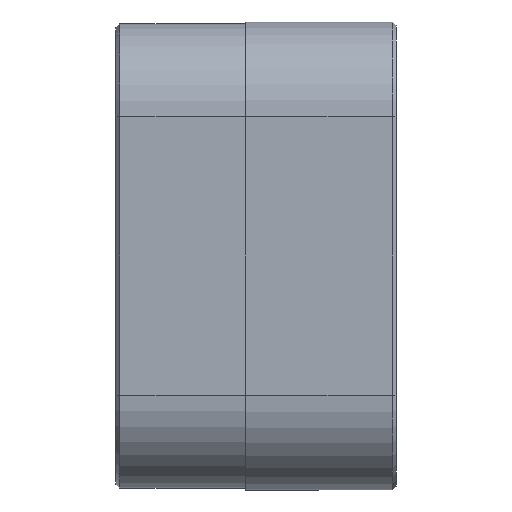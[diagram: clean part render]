
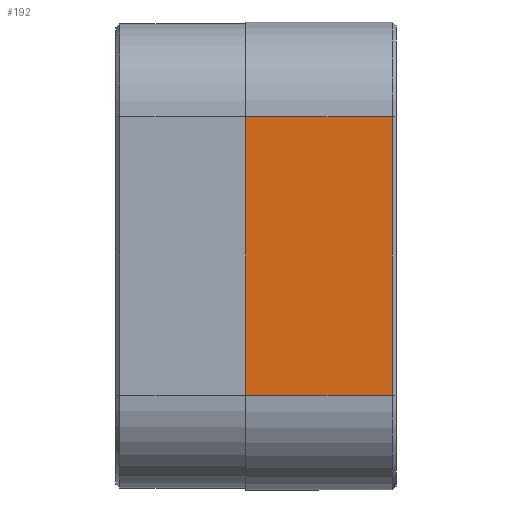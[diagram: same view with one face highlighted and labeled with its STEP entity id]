
A CAD part, left-side view. The second image highlights one B-rep face of the part: STEP entity #192.
In plain terms, the highlighted planar face has unit normal (-1, 0, 0).
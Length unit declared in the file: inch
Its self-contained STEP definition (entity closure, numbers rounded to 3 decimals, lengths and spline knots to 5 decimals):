
#117 = ORIENTED_EDGE ( 'NONE', *, *, #193, .T. ) ;
#132 = EDGE_LOOP ( 'NONE', ( #145, #117, #178, #177 ) ) ;
#138 = VERTEX_POINT ( 'NONE', #1022 ) ;
#145 = ORIENTED_EDGE ( 'NONE', *, *, #156, .T. ) ;
#154 = VERTEX_POINT ( 'NONE', #1097 ) ;
#156 = EDGE_CURVE ( 'NONE', #154, #161, #1082, .T. ) ;
#161 = VERTEX_POINT ( 'NONE', #1083 ) ;
#177 = ORIENTED_EDGE ( 'NONE', *, *, #181, .F. ) ;
#178 = ORIENTED_EDGE ( 'NONE', *, *, #179, .T. ) ;
#179 = EDGE_CURVE ( 'NONE', #138, #183, #1282, .T. ) ;
#181 = EDGE_CURVE ( 'NONE', #154, #183, #1279, .T. ) ;
#183 = VERTEX_POINT ( 'NONE', #1228 ) ;
#192 = ADVANCED_FACE ( 'NONE', ( #1231 ), #1221, .F. ) ;
#193 = EDGE_CURVE ( 'NONE', #161, #138, #1175, .T. ) ;
#1022 = CARTESIAN_POINT ( 'NONE',  ( -1.745, 0.02, 0.74 ) ) ;
#1079 = DIRECTION ( 'NONE',  ( 0., -1., 0. ) ) ;
#1080 = VECTOR ( 'NONE', #1079, 39.37008 ) ;
#1081 = CARTESIAN_POINT ( 'NONE',  ( -1.745, 1.49, -0.74 ) ) ;
#1082 = LINE ( 'NONE', #1081, #1080 ) ;
#1083 = CARTESIAN_POINT ( 'NONE',  ( -1.745, 0.02, -0.74 ) ) ;
#1097 = CARTESIAN_POINT ( 'NONE',  ( -1.745, 0.8, -0.74 ) ) ;
#1168 = DIRECTION ( 'NONE',  ( 0., 0., 1. ) ) ;
#1170 = DIRECTION ( 'NONE',  ( 0., 0., -1. ) ) ;
#1171 = DIRECTION ( 'NONE',  ( 1., 0., 0. ) ) ;
#1173 = VECTOR ( 'NONE', #1168, 39.37008 ) ;
#1174 = CARTESIAN_POINT ( 'NONE',  ( -1.745, 0.02, 0.74 ) ) ;
#1175 = LINE ( 'NONE', #1174, #1173 ) ;
#1181 = AXIS2_PLACEMENT_3D ( 'NONE', #1223, #1171, #1170 ) ;
#1221 = PLANE ( 'NONE',  #1181 ) ;
#1223 = CARTESIAN_POINT ( 'NONE',  ( -1.745, 1.49, 1.245 ) ) ;
#1224 = DIRECTION ( 'NONE',  ( 0., 0., 1. ) ) ;
#1225 = VECTOR ( 'NONE', #1224, 39.37008 ) ;
#1226 = CARTESIAN_POINT ( 'NONE',  ( -1.745, 0.8, 1.245 ) ) ;
#1228 = CARTESIAN_POINT ( 'NONE',  ( -1.745, 0.8, 0.74 ) ) ;
#1229 = DIRECTION ( 'NONE',  ( 0., 1., 0. ) ) ;
#1230 = VECTOR ( 'NONE', #1229, 39.37008 ) ;
#1231 = FACE_OUTER_BOUND ( 'NONE', #132, .T. ) ;
#1279 = LINE ( 'NONE', #1226, #1225 ) ;
#1281 = CARTESIAN_POINT ( 'NONE',  ( -1.745, 1.49, 0.74 ) ) ;
#1282 = LINE ( 'NONE', #1281, #1230 ) ;
